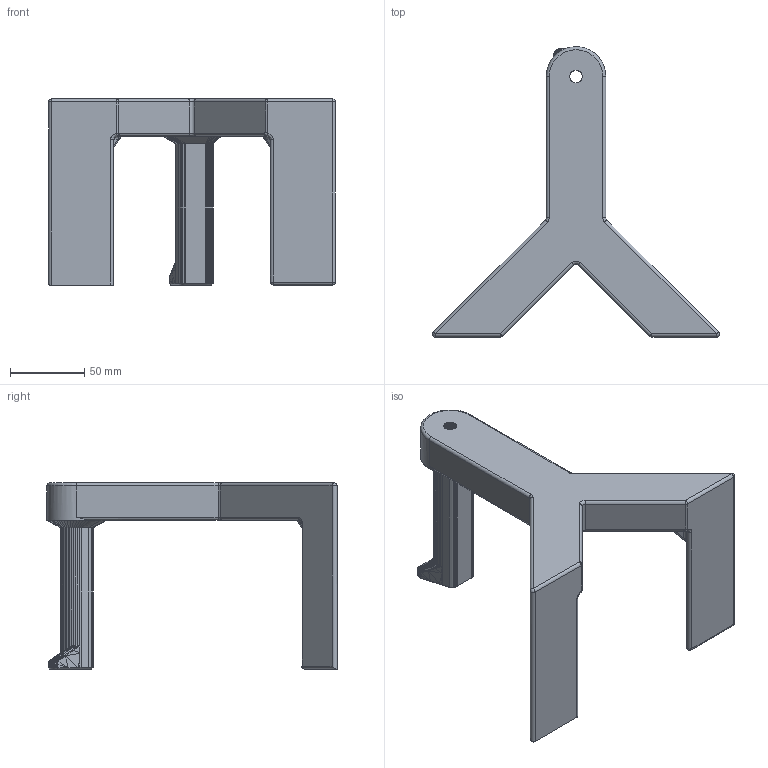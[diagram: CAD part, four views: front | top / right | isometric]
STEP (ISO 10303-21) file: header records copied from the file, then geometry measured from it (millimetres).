
FILE_DESCRIPTION(/* description */ (''),/* implementation_level */ '2;1');
FILE_NAME(/* name */ 'G:/ownCloud/3D modely/PRUSA MK3S/AA) Box/AA) moje soubory/One piece spool holder/spool holder one piece .step',/* time_stamp */ '2022-02-08T17:05:24+01:00',/* author */ (''),/* organization */ (''),/* preprocessor_version */ 'ST-DEVELOPER v18.1',/* originating_system */ 'Autodesk Translation Framework v10.13.0.1454',/* authorisation */ '');
FILE_SCHEMA (('AUTOMOTIVE_DESIGN { 1 0 10303 214 3 1 1 }'));
Length unit declared in the file: millimetre
Products named in the file (1): spool holder one piece
Bounding box: 192.73 x 195 x 125 mm (x, y, z)
Volume: 448678.7 mm3; surface area: 72748 mm2
Topology: 1 solids, 1 shells, 621 faces, 1303 edges, 675 vertices
Faces by surface type: plane 478, bspline 64, cylinder 53, sphere 13, torus 11, cone 2
Entity records: 17501 total; most frequent: CARTESIAN_POINT 4496, ORIENTED_EDGE 2680, DIRECTION 2563, EDGE_CURVE 1340, LINE 1151, VECTOR 1151, VERTEX_POINT 721, AXIS2_PLACEMENT_3D 706
